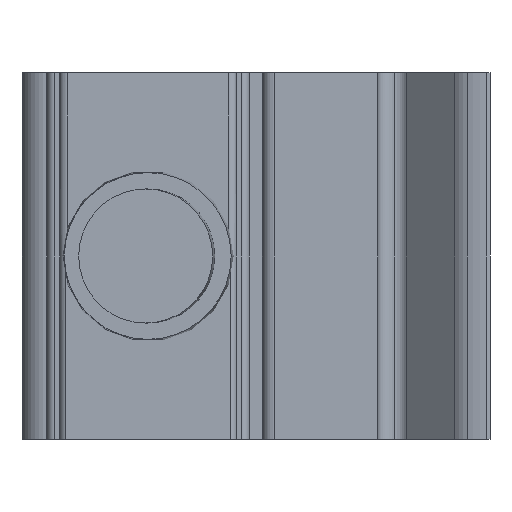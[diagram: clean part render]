
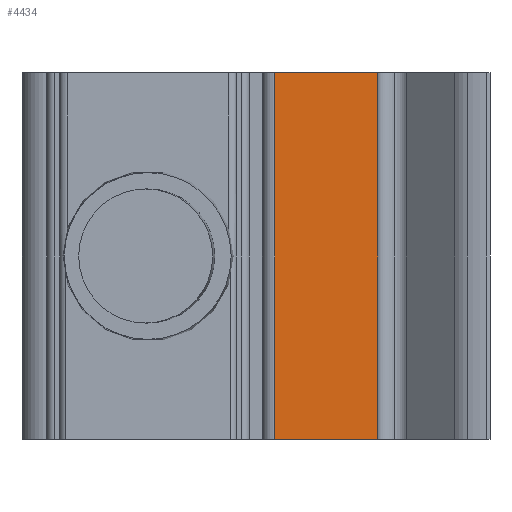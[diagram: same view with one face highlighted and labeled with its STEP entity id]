
A CAD part, left-side view. The second image highlights one B-rep face of the part: STEP entity #4434.
In plain terms, the highlighted planar face has unit normal (-1, 0, 0).
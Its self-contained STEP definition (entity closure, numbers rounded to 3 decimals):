
#661=FACE_OUTER_BOUND('',#899,.T.);
#899=EDGE_LOOP('',(#3917,#3918,#3919,#3920));
#1322=LINE('',#7569,#1771);
#1323=LINE('',#7572,#1772);
#1324=LINE('',#7574,#1773);
#1325=LINE('',#7575,#1774);
#1771=VECTOR('',#6159,10.);
#1772=VECTOR('',#6162,10.);
#1773=VECTOR('',#6163,10.);
#1774=VECTOR('',#6164,10.);
#2186=VERTEX_POINT('',#7565);
#2187=VERTEX_POINT('',#7567);
#2188=VERTEX_POINT('',#7571);
#2189=VERTEX_POINT('',#7573);
#2775=EDGE_CURVE('',#2186,#2187,#1322,.T.);
#2776=EDGE_CURVE('',#2186,#2188,#1323,.T.);
#2777=EDGE_CURVE('',#2189,#2187,#1324,.T.);
#2778=EDGE_CURVE('',#2188,#2189,#1325,.T.);
#3917=ORIENTED_EDGE('',*,*,#2776,.F.);
#3918=ORIENTED_EDGE('',*,*,#2775,.T.);
#3919=ORIENTED_EDGE('',*,*,#2777,.F.);
#3920=ORIENTED_EDGE('',*,*,#2778,.F.);
#4224=PLANE('',#4967);
#4434=ADVANCED_FACE('',(#661),#4224,.T.);
#4967=AXIS2_PLACEMENT_3D('',#7570,#6160,#6161);
#6159=DIRECTION('',(0.,0.,-1.));
#6160=DIRECTION('center_axis',(-1.,0.,0.));
#6161=DIRECTION('ref_axis',(0.,1.,0.));
#6162=DIRECTION('',(0.,-1.,0.));
#6163=DIRECTION('',(0.,1.,0.));
#6164=DIRECTION('',(0.,0.,-1.));
#7565=CARTESIAN_POINT('',(-21.5,-6.5,0.));
#7567=CARTESIAN_POINT('',(-21.5,-6.5,-14.5));
#7569=CARTESIAN_POINT('',(-21.5,-6.5,0.));
#7570=CARTESIAN_POINT('Origin',(-21.5,-10.583,0.));
#7571=CARTESIAN_POINT('',(-21.5,-10.583,0.));
#7572=CARTESIAN_POINT('',(-21.5,-6.5,0.));
#7573=CARTESIAN_POINT('',(-21.5,-10.583,-14.5));
#7574=CARTESIAN_POINT('',(-21.5,-6.5,-14.5));
#7575=CARTESIAN_POINT('',(-21.5,-10.583,0.));
